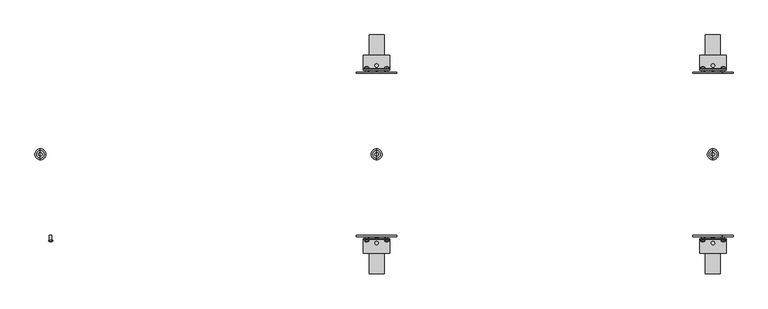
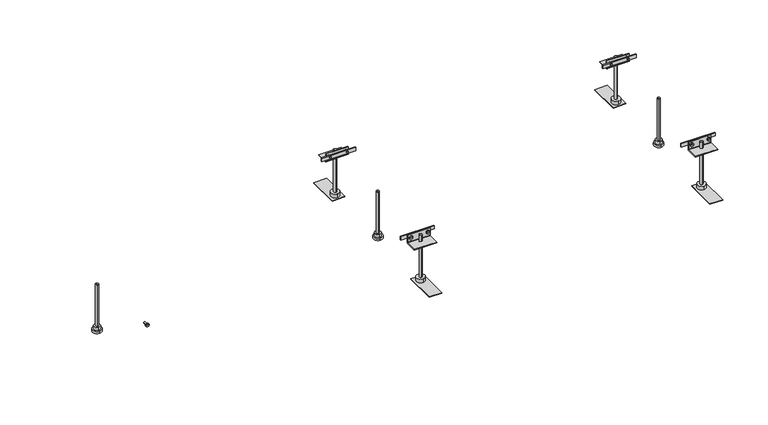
"""IFC4 building model written with IfcOpenShell, lengths in millimetres: proxy geometry, Electrical_Installation_Hager_BKF-Trunking-System-With-Flexible-Screed-Casing-For-Dry-Cleaned-Floors : Nominal Size 400  Length 2.4 m."""

from ifc_helpers import new_model, si_unit, point, frame, frame_2d, origin, place, context, project, spatial, polyline, circle_curve, ellipse_curve, trimmed, segment, composite_curve, outline, extrude, source, transform, mapped, element, save
from ifc_brep_helpers import plane_surface, cylinder_surface, revolved_surface, advanced_brep


def electrical_fixtures_b3ad14d0(model_context):
    return source(origin(), model_context, "Body", "SolidModel", [
        advanced_brep(
        [(1600.0, 13.0, -129.7), (1600.0, -13.0, -129.7), (1600.0, 0.0, -129.7), (1600.0, 13.0, -123.7), (1600.0, -13.0, -123.7), (1600.0, 9.0, -123.7), (1600.0, -9.0, -123.7), (1600.0, 9.0, -114.7), (1600.0, -9.0, -114.7), (1600.0, 3.954744, -114.7), (1600.0, -3.954744, -114.7), (1600.0, 3.954744, 10.3), (1600.0, -3.954744, 10.3), (1600.0, 0.0, 10.3)],
        [
            (0, 1, circle_curve(frame((1600.0, 0.0, -129.7), z_axis=(0.0, 0.0, -1.0), x_axis=(0.0, -1.0, 0.0)), 13.0)),
            (1, 2),
            (2, 0),
            (1, 0, circle_curve(frame((1600.0, 0.0, -129.7), z_axis=(0.0, 0.0, -1.0), x_axis=(0.0, -1.0, 0.0)), 13.0)),
            (3, 4, circle_curve(frame((1600.0, 0.0, -123.7), z_axis=(0.0, 0.0, -1.0), x_axis=(0.0, -1.0, 0.0)), 13.0)),
            (4, 1),
            (0, 3),
            (4, 3, circle_curve(frame((1600.0, 0.0, -123.7), z_axis=(0.0, 0.0, -1.0), x_axis=(0.0, -1.0, 0.0)), 13.0)),
            (5, 6, circle_curve(frame((1600.0, 0.0, -123.7), z_axis=(0.0, 0.0, -1.0), x_axis=(0.0, -1.0, 0.0)), 9.0)),
            (6, 4),
            (3, 5),
            (6, 5, circle_curve(frame((1600.0, 0.0, -123.7), z_axis=(0.0, 0.0, -1.0), x_axis=(0.0, -1.0, 0.0)), 9.0)),
            (7, 8, circle_curve(frame((1600.0, 0.0, -114.7), z_axis=(0.0, 0.0, -1.0), x_axis=(0.0, -1.0, 0.0)), 9.0)),
            (8, 6),
            (5, 7),
            (8, 7, circle_curve(frame((1600.0, 0.0, -114.7), z_axis=(0.0, 0.0, -1.0), x_axis=(0.0, -1.0, 0.0)), 9.0)),
            (9, 10, circle_curve(frame((1600.0, 0.0, -114.7), z_axis=(0.0, 0.0, -1.0), x_axis=(0.0, -1.0, 0.0)), 3.954744)),
            (10, 8),
            (7, 9),
            (10, 9, circle_curve(frame((1600.0, 0.0, -114.7), z_axis=(0.0, 0.0, -1.0), x_axis=(0.0, -1.0, 0.0)), 3.954744)),
            (11, 12, circle_curve(frame((1600.0, 0.0, 10.3), z_axis=(0.0, 0.0, -1.0), x_axis=(0.0, -1.0, 0.0)), 3.954744)),
            (12, 10),
            (9, 11),
            (12, 11, circle_curve(frame((1600.0, 0.0, 10.3), z_axis=(0.0, 0.0, -1.0), x_axis=(0.0, -1.0, 0.0)), 3.954744)),
            (13, 12),
            (11, 13),
        ],
        [
            plane_surface(frame((1600.0, 0.0, -129.7), z_axis=(0.0, 0.0, -1.0), x_axis=(0.0, -1.0, 0.0))),
            cylinder_surface(frame((1600.0, 0.0, 7.8), z_axis=(0.0, 0.0, 1.0), x_axis=(0.0, -1.0, 0.0)), 13.0),
            plane_surface(frame((1600.0, 0.0, -123.7), z_axis=(0.0, 0.0, 1.0), x_axis=(0.0, -1.0, 0.0))),
            cylinder_surface(frame((1600.0, 0.0, 7.8), z_axis=(0.0, 0.0, 1.0), x_axis=(0.0, -1.0, 0.0)), 9.0),
            plane_surface(frame((1600.0, 0.0, -114.7), z_axis=(0.0, 0.0, 1.0), x_axis=(0.0, -1.0, 0.0))),
            cylinder_surface(frame((1600.0, 0.0, 7.8), z_axis=(0.0, 0.0, 1.0), x_axis=(0.0, -1.0, 0.0)), 3.954744),
            plane_surface(frame((1600.0, 0.0, 10.3), z_axis=(0.0, 0.0, 1.0), x_axis=(0.0, -1.0, 0.0))),
        ],
        [
            (0, [[1, 2, 3]]),
            (0, [[4, -3, -2]]),
            (1, [[5, 6, -1, 7]]),
            (1, [[8, -7, -4, -6]]),
            (2, [[9, 10, -5, 11]]),
            (2, [[12, -11, -8, -10]]),
            (3, [[13, 14, -9, 15]]),
            (3, [[16, -15, -12, -14]]),
            (4, [[17, 18, -13, 19]]),
            (4, [[20, -19, -16, -18]]),
            (5, [[21, 22, -17, 23]]),
            (5, [[24, -23, -20, -22]]),
            (6, [[25, -21, 26]]),
            (6, [[-26, -24, -25]]),
        ],
    ),
        advanced_brep(
        [(1629.0575247, -206.6418922, 3.3), (1619.4769168, -206.6418922, 3.3), (1619.4769168, -204.7, 3.3), (1629.0575247, -204.7, 3.3), (1621.7042517, -204.7, 3.3), (1626.8301898, -204.7, 3.3), (1621.7042517, -192.7, 3.3), (1626.8301898, -192.7, 3.3), (1624.2672208, -192.7, 3.3), (1624.2672208, -208.3479209, 3.3)],
        [
            (0, 1, circle_curve(frame((1624.2672208, -206.6418922, 3.3), z_axis=(0.0, 1.0, 0.0), x_axis=(-1.0, 0.0, 0.0)), 4.790304)),
            (1, 2),
            (2, 3, circle_curve(frame((1624.2672208, -204.7, 3.3), z_axis=(0.0, -1.0, 0.0), x_axis=(-1.0, 0.0, 0.0)), 4.790304)),
            (3, 0),
            (1, 0, circle_curve(frame((1624.2672208, -206.6418922, 3.3), z_axis=(0.0, 1.0, 0.0), x_axis=(-1.0, 0.0, 0.0)), 4.790304)),
            (3, 2, circle_curve(frame((1624.2672208, -204.7, 3.3), z_axis=(0.0, -1.0, 0.0), x_axis=(-1.0, 0.0, 0.0)), 4.790304)),
            (2, 4),
            (4, 5, circle_curve(frame((1624.2672208, -204.7, 3.3), z_axis=(0.0, -1.0, 0.0), x_axis=(-1.0, 0.0, 0.0)), 2.562969)),
            (5, 3),
            (5, 4, circle_curve(frame((1624.2672208, -204.7, 3.3), z_axis=(0.0, -1.0, 0.0), x_axis=(-1.0, 0.0, 0.0)), 2.562969)),
            (4, 6),
            (6, 7, circle_curve(frame((1624.2672208, -192.7, 3.3), z_axis=(0.0, -1.0, 0.0), x_axis=(-1.0, 0.0, 0.0)), 2.562969)),
            (7, 5),
            (7, 6, circle_curve(frame((1624.2672208, -192.7, 3.3), z_axis=(0.0, -1.0, 0.0), x_axis=(-1.0, 0.0, 0.0)), 2.562969)),
            (6, 8),
            (8, 7),
            (9, 1, circle_curve(frame((1624.2353142, -200.8592246, 3.3), z_axis=(0.0, 0.0, -1.0), x_axis=(-1.0, 0.0, 0.0)), 7.4887643)),
            (0, 9, circle_curve(frame((1624.2991274, -200.8592246, 3.3), z_axis=(0.0, 0.0, -1.0), x_axis=(1.0, 0.0, 0.0)), 7.4887643)),
        ],
        [
            cylinder_surface(frame((1624.2672208, -204.2950786, 3.3), z_axis=(0.0, -1.0, 0.0), x_axis=(-1.0, 0.0, 0.0)), 4.790304),
            plane_surface(frame((1624.2672208, -204.7, 3.3), z_axis=(0.0, 1.0, 0.0), x_axis=(-1.0, 0.0, 0.0))),
            cylinder_surface(frame((1624.2672208, -204.2950786, 3.3), z_axis=(0.0, -1.0, 0.0), x_axis=(-1.0, 0.0, 0.0)), 2.562969),
            plane_surface(frame((1624.2672208, -192.7, 3.3), z_axis=(0.0, 1.0, 0.0), x_axis=(-1.0, 0.0, 0.0))),
            revolved_surface(trimmed(ellipse_curve(frame((1624.2353142, -200.8592246, 3.3), z_axis=(0.0, 0.0, 1.0), x_axis=(-1.0, 0.0, 0.0)), 7.4887643, 7.4887643), [point((1619.4769168, -206.6418922, 3.3))], [point((1624.2672208, -208.3479209, 3.3))], True, "CARTESIAN"), (1624.2672208, -204.2950786, 3.3), (0.0, -1.0, 0.0)),
        ],
        [
            (0, [[1, 2, 3, 4]]),
            (0, [[5, -4, 6, -2]]),
            (1, [[-3, 7, 8, 9]]),
            (1, [[-6, -9, 10, -7]]),
            (2, [[-8, 11, 12, 13]]),
            (2, [[-10, -13, 14, -11]]),
            (3, [[-12, 15, 16]]),
            (3, [[-14, -16, -15]]),
            (4, [[17, -1, 18]]),
            (4, [[-18, -5, -17]]),
        ],
    ),
        advanced_brep(
        [(1580.790304, -206.6418922, 3.3), (1571.209696, -206.6418922, 3.3), (1571.209696, -204.7, 3.3), (1580.790304, -204.7, 3.3), (1573.437031, -204.7, 3.3), (1578.562969, -204.7, 3.3), (1573.437031, -192.7, 3.3), (1578.562969, -192.7, 3.3), (1576.0, -192.7, 3.3), (1576.0, -208.3479209, 3.3)],
        [
            (0, 1, circle_curve(frame((1576.0, -206.6418922, 3.3), z_axis=(0.0, 1.0, 0.0), x_axis=(-1.0, 0.0, 0.0)), 4.790304)),
            (1, 2),
            (2, 3, circle_curve(frame((1576.0, -204.7, 3.3), z_axis=(0.0, -1.0, 0.0), x_axis=(-1.0, 0.0, 0.0)), 4.790304)),
            (3, 0),
            (1, 0, circle_curve(frame((1576.0, -206.6418922, 3.3), z_axis=(0.0, 1.0, 0.0), x_axis=(-1.0, 0.0, 0.0)), 4.790304)),
            (3, 2, circle_curve(frame((1576.0, -204.7, 3.3), z_axis=(0.0, -1.0, 0.0), x_axis=(-1.0, 0.0, 0.0)), 4.790304)),
            (2, 4),
            (4, 5, circle_curve(frame((1576.0, -204.7, 3.3), z_axis=(0.0, -1.0, 0.0), x_axis=(-1.0, 0.0, 0.0)), 2.562969)),
            (5, 3),
            (5, 4, circle_curve(frame((1576.0, -204.7, 3.3), z_axis=(0.0, -1.0, 0.0), x_axis=(-1.0, 0.0, 0.0)), 2.562969)),
            (4, 6),
            (6, 7, circle_curve(frame((1576.0, -192.7, 3.3), z_axis=(0.0, -1.0, 0.0), x_axis=(-1.0, 0.0, 0.0)), 2.562969)),
            (7, 5),
            (7, 6, circle_curve(frame((1576.0, -192.7, 3.3), z_axis=(0.0, -1.0, 0.0), x_axis=(-1.0, 0.0, 0.0)), 2.562969)),
            (6, 8),
            (8, 7),
            (9, 1, circle_curve(frame((1575.9680934, -200.8592246, 3.3), z_axis=(0.0, 0.0, -1.0), x_axis=(-1.0, 0.0, 0.0)), 7.4887643)),
            (0, 9, circle_curve(frame((1576.0319066, -200.8592246, 3.3), z_axis=(0.0, 0.0, -1.0), x_axis=(1.0, 0.0, 0.0)), 7.4887643)),
        ],
        [
            cylinder_surface(frame((1576.0, -204.2950786, 3.3), z_axis=(0.0, -1.0, 0.0), x_axis=(-1.0, 0.0, 0.0)), 4.790304),
            plane_surface(frame((1576.0, -204.7, 3.3), z_axis=(0.0, 1.0, 0.0), x_axis=(-1.0, 0.0, 0.0))),
            cylinder_surface(frame((1576.0, -204.2950786, 3.3), z_axis=(0.0, -1.0, 0.0), x_axis=(-1.0, 0.0, 0.0)), 2.562969),
            plane_surface(frame((1576.0, -192.7, 3.3), z_axis=(0.0, 1.0, 0.0), x_axis=(-1.0, 0.0, 0.0))),
            revolved_surface(trimmed(ellipse_curve(frame((1575.9680934, -200.8592246, 3.3), z_axis=(0.0, 0.0, 1.0), x_axis=(-1.0, 0.0, 0.0)), 7.4887643, 7.4887643), [point((1571.209696, -206.6418922, 3.3))], [point((1576.0, -208.3479209, 3.3))], True, "CARTESIAN"), (1576.0, -204.2950786, 3.3), (0.0, -1.0, 0.0)),
        ],
        [
            (0, [[1, 2, 3, 4]]),
            (0, [[5, -4, 6, -2]]),
            (1, [[-3, 7, 8, 9]]),
            (1, [[-6, -9, 10, -7]]),
            (2, [[-8, 11, 12, 13]]),
            (2, [[-10, -13, 14, -11]]),
            (3, [[-12, 15, 16]]),
            (3, [[-14, -16, -15]]),
            (4, [[17, -1, 18]]),
            (4, [[-18, -5, -17]]),
        ],
    ),
        advanced_brep(
        [(1629.0575247, 204.7, 3.3), (1619.4769168, 204.7, 3.3), (1619.4769168, 206.6418922, 3.3), (1629.0575247, 206.6418922, 3.3), (1626.8301898, 204.7, 3.3), (1621.7042517, 204.7, 3.3), (1626.8301898, 192.7, 3.3), (1621.7042517, 192.7, 3.3), (1624.2672208, 192.7, 3.3), (1624.2672208, 208.3479209, 3.3)],
        [
            (0, 1, circle_curve(frame((1624.2672208, 204.7, 3.3), z_axis=(0.0, 1.0, 0.0), x_axis=(-1.0, 0.0, 0.0)), 4.790304)),
            (1, 2),
            (2, 3, circle_curve(frame((1624.2672208, 206.6418922, 3.3), z_axis=(0.0, -1.0, 0.0), x_axis=(-1.0, 0.0, 0.0)), 4.790304)),
            (3, 0),
            (1, 0, circle_curve(frame((1624.2672208, 204.7, 3.3), z_axis=(0.0, 1.0, 0.0), x_axis=(-1.0, 0.0, 0.0)), 4.790304)),
            (3, 2, circle_curve(frame((1624.2672208, 206.6418922, 3.3), z_axis=(0.0, -1.0, 0.0), x_axis=(-1.0, 0.0, 0.0)), 4.790304)),
            (4, 5, circle_curve(frame((1624.2672208, 204.7, 3.3), z_axis=(0.0, 1.0, 0.0), x_axis=(-1.0, 0.0, 0.0)), 2.562969)),
            (5, 1),
            (0, 4),
            (5, 4, circle_curve(frame((1624.2672208, 204.7, 3.3), z_axis=(0.0, 1.0, 0.0), x_axis=(-1.0, 0.0, 0.0)), 2.562969)),
            (6, 7, circle_curve(frame((1624.2672208, 192.7, 3.3), z_axis=(0.0, 1.0, 0.0), x_axis=(-1.0, 0.0, 0.0)), 2.562969)),
            (7, 5),
            (4, 6),
            (7, 6, circle_curve(frame((1624.2672208, 192.7, 3.3), z_axis=(0.0, 1.0, 0.0), x_axis=(-1.0, 0.0, 0.0)), 2.562969)),
            (8, 7),
            (6, 8),
            (2, 9, circle_curve(frame((1624.2353142, 200.8592246, 3.3), z_axis=(0.0, 0.0, -1.0), x_axis=(-1.0, 0.0, 0.0)), 7.4887643)),
            (9, 3, circle_curve(frame((1624.2991274, 200.8592246, 3.3), z_axis=(0.0, 0.0, -1.0), x_axis=(1.0, 0.0, 0.0)), 7.4887643)),
        ],
        [
            cylinder_surface(frame((1624.2672208, 204.2950786, 3.3), z_axis=(0.0, -1.0, 0.0), x_axis=(-1.0, 0.0, 0.0)), 4.790304),
            plane_surface(frame((1624.2672208, 204.7, 3.3), z_axis=(0.0, -1.0, 0.0), x_axis=(-1.0, 0.0, 0.0))),
            cylinder_surface(frame((1624.2672208, 204.2950786, 3.3), z_axis=(0.0, -1.0, 0.0), x_axis=(-1.0, 0.0, 0.0)), 2.562969),
            plane_surface(frame((1624.2672208, 192.7, 3.3), z_axis=(0.0, -1.0, 0.0), x_axis=(-1.0, 0.0, 0.0))),
            revolved_surface(trimmed(ellipse_curve(frame((1624.2353142, 200.8592246, 3.3), z_axis=(0.0, 0.0, 1.0), x_axis=(-1.0, 0.0, 0.0)), 7.4887643, 7.4887643), [point((1624.2672208, 208.3479209, 3.3))], [point((1619.4769168, 206.6418922, 3.3))], True, "CARTESIAN"), (1624.2672208, 204.2950786, 3.3), (0.0, -1.0, 0.0)),
        ],
        [
            (0, [[1, 2, 3, 4]]),
            (0, [[5, -4, 6, -2]]),
            (1, [[7, 8, -1, 9]]),
            (1, [[10, -9, -5, -8]]),
            (2, [[11, 12, -7, 13]]),
            (2, [[14, -13, -10, -12]]),
            (3, [[15, -11, 16]]),
            (3, [[-16, -14, -15]]),
            (4, [[-3, 17, 18]]),
            (4, [[-6, -18, -17]]),
        ],
    ),
        advanced_brep(
        [(1580.790304, 204.7, 3.3), (1571.209696, 204.7, 3.3), (1571.209696, 206.6418922, 3.3), (1580.790304, 206.6418922, 3.3), (1578.562969, 204.7, 3.3), (1573.437031, 204.7, 3.3), (1578.562969, 192.7, 3.3), (1573.437031, 192.7, 3.3), (1576.0, 192.7, 3.3), (1576.0, 208.3479209, 3.3)],
        [
            (0, 1, circle_curve(frame((1576.0, 204.7, 3.3), z_axis=(0.0, 1.0, 0.0), x_axis=(-1.0, 0.0, 0.0)), 4.790304)),
            (1, 2),
            (2, 3, circle_curve(frame((1576.0, 206.6418922, 3.3), z_axis=(0.0, -1.0, 0.0), x_axis=(-1.0, 0.0, 0.0)), 4.790304)),
            (3, 0),
            (1, 0, circle_curve(frame((1576.0, 204.7, 3.3), z_axis=(0.0, 1.0, 0.0), x_axis=(-1.0, 0.0, 0.0)), 4.790304)),
            (3, 2, circle_curve(frame((1576.0, 206.6418922, 3.3), z_axis=(0.0, -1.0, 0.0), x_axis=(-1.0, 0.0, 0.0)), 4.790304)),
            (4, 5, circle_curve(frame((1576.0, 204.7, 3.3), z_axis=(0.0, 1.0, 0.0), x_axis=(-1.0, 0.0, 0.0)), 2.562969)),
            (5, 1),
            (0, 4),
            (5, 4, circle_curve(frame((1576.0, 204.7, 3.3), z_axis=(0.0, 1.0, 0.0), x_axis=(-1.0, 0.0, 0.0)), 2.562969)),
            (6, 7, circle_curve(frame((1576.0, 192.7, 3.3), z_axis=(0.0, 1.0, 0.0), x_axis=(-1.0, 0.0, 0.0)), 2.562969)),
            (7, 5),
            (4, 6),
            (7, 6, circle_curve(frame((1576.0, 192.7, 3.3), z_axis=(0.0, 1.0, 0.0), x_axis=(-1.0, 0.0, 0.0)), 2.562969)),
            (8, 7),
            (6, 8),
            (2, 9, circle_curve(frame((1575.9680934, 200.8592246, 3.3), z_axis=(0.0, 0.0, -1.0), x_axis=(-1.0, 0.0, 0.0)), 7.4887643)),
            (9, 3, circle_curve(frame((1576.0319066, 200.8592246, 3.3), z_axis=(0.0, 0.0, -1.0), x_axis=(1.0, 0.0, 0.0)), 7.4887643)),
        ],
        [
            cylinder_surface(frame((1576.0, 204.2950786, 3.3), z_axis=(0.0, -1.0, 0.0), x_axis=(-1.0, 0.0, 0.0)), 4.790304),
            plane_surface(frame((1576.0, 204.7, 3.3), z_axis=(0.0, -1.0, 0.0), x_axis=(-1.0, 0.0, 0.0))),
            cylinder_surface(frame((1576.0, 204.2950786, 3.3), z_axis=(0.0, -1.0, 0.0), x_axis=(-1.0, 0.0, 0.0)), 2.562969),
            plane_surface(frame((1576.0, 192.7, 3.3), z_axis=(0.0, -1.0, 0.0), x_axis=(-1.0, 0.0, 0.0))),
            revolved_surface(trimmed(ellipse_curve(frame((1575.9680934, 200.8592246, 3.3), z_axis=(0.0, 0.0, 1.0), x_axis=(-1.0, 0.0, 0.0)), 7.4887643, 7.4887643), [point((1576.0, 208.3479209, 3.3))], [point((1571.209696, 206.6418922, 3.3))], True, "CARTESIAN"), (1576.0, 204.2950786, 3.3), (0.0, -1.0, 0.0)),
        ],
        [
            (0, [[1, 2, 3, 4]]),
            (0, [[5, -4, 6, -2]]),
            (1, [[7, 8, -1, 9]]),
            (1, [[10, -9, -5, -8]]),
            (2, [[11, 12, -7, 13]]),
            (2, [[14, -13, -10, -12]]),
            (3, [[15, -11, 16]]),
            (3, [[-16, -14, -15]]),
            (4, [[-3, 17, 18]]),
            (4, [[-6, -18, -17]]),
        ],
    ),
        extrude(outline(polyline([(1552.0, 192.7), (1552.0, 195.7), (1648.0, 195.7), (1648.0, 192.7), (1552.0, 192.7)])), frame((0.0, 0.0, -1.7), z_axis=(0.0, 0.0, 1.0), x_axis=(1.0, 0.0, 0.0)), (0.0, 0.0, 1.0), 10.0),
        extrude(outline(polyline([(1552.0, -195.7), (1552.0, -192.7), (1648.0, -192.7), (1648.0, -195.7), (1552.0, -195.7)])), frame((0.0, 0.0, -1.7), z_axis=(0.0, 0.0, 1.0), x_axis=(1.0, 0.0, 0.0)), (0.0, 0.0, 1.0), 10.0),
        extrude(outline(composite_curve([segment(polyline([(200.6, 11.7), (202.6, 11.7), (202.6, -10.3088822)]), True, "CONTINUOUS"), segment(trimmed(circle_curve(frame_2d((203.5911178, -10.3088822)), 0.9911178), [point((202.6, -10.3088822))], [point((203.5911178, -11.3))], True, "CARTESIAN"), True, "CONTINUOUS"), segment(polyline([(203.5911178, -11.3), (235.6, -11.3), (235.6, -13.3), (203.6002521, -13.3)]), True, "CONTINUOUS"), segment(trimmed(circle_curve(frame_2d((203.6002521, -10.2997479)), 3.0002521), [point((203.6002521, -13.3))], [point((200.6, -10.2997479))], False, "CARTESIAN"), True, "CONTINUOUS"), segment(polyline([(200.6, -10.2997479), (200.6, 11.7)]), True, "CONTINUOUS")], self_intersect=False)), frame((1568.3, 0.0, 0.0), z_axis=(1.0, 0.0, 0.0), x_axis=(0.0, 1.0, 0.0)), (0.0, 0.0, 1.0), 63.4),
        extrude(outline(composite_curve([segment(polyline([(-200.6, 11.7), (-200.6, -10.2997479)]), True, "CONTINUOUS"), segment(trimmed(circle_curve(frame_2d((-203.6002521, -10.2997479)), 3.0002521), [point((-200.6, -10.2997479))], [point((-203.6002521, -13.3))], False, "CARTESIAN"), True, "CONTINUOUS"), segment(polyline([(-203.6002521, -13.3), (-235.6, -13.3), (-235.6, -11.3), (-203.5911178, -11.3)]), True, "CONTINUOUS"), segment(trimmed(circle_curve(frame_2d((-203.5911178, -10.3088822)), 0.9911178), [point((-203.5911178, -11.3))], [point((-202.6, -10.3088822))], True, "CARTESIAN"), True, "CONTINUOUS"), segment(polyline([(-202.6, -10.3088822), (-202.6, 11.7), (-200.6, 11.7)]), True, "CONTINUOUS")], self_intersect=False)), frame((1568.3, 0.0, 0.0), z_axis=(1.0, 0.0, 0.0), x_axis=(0.0, 1.0, 0.0)), (0.0, 0.0, 1.0), 63.4),
        extrude(outline(composite_curve([segment(trimmed(circle_curve(frame_2d((1600.0, 211.1712378)), 3.9923162), [point((1600.0, 215.163554))], [point((1600.0, 207.1789216))], False, "CARTESIAN"), True, "CONTINUOUS"), segment(trimmed(circle_curve(frame_2d((1600.0, 211.1712378)), 3.9923162), [point((1600.0, 207.1789216))], [point((1600.0, 215.163554))], False, "CARTESIAN"), True, "CONTINUOUS")], self_intersect=False)), frame((0.0, 0.0, -119.0), z_axis=(0.0, 0.0, 1.0), x_axis=(1.0, 0.0, 0.0)), (0.0, 0.0, 1.0), 126.8),
        extrude(outline(composite_curve([segment(trimmed(circle_curve(frame_2d((1600.0, -211.0787011)), 3.991847), [point((1600.0, -207.0868541))], [point((1600.0, -215.0705482))], False, "CARTESIAN"), True, "CONTINUOUS"), segment(trimmed(circle_curve(frame_2d((1600.0, -211.0787011)), 3.991847), [point((1600.0, -215.0705482))], [point((1600.0, -207.0868541))], False, "CARTESIAN"), True, "CONTINUOUS")], self_intersect=False)), frame((0.0, 0.0, -119.0), z_axis=(0.0, 0.0, 1.0), x_axis=(1.0, 0.0, 0.0)), (0.0, 0.0, 1.0), 126.8),
        extrude(outline(composite_curve([segment(trimmed(circle_curve(frame_2d((1600.0, 211.1652527)), 12.0), [point((1600.0, 223.1652527))], [point((1600.0, 199.1652527))], False, "CARTESIAN"), True, "CONTINUOUS"), segment(trimmed(circle_curve(frame_2d((1600.0, 211.1652527)), 12.0), [point((1600.0, 199.1652527))], [point((1600.0, 223.1652527))], False, "CARTESIAN"), True, "CONTINUOUS")], self_intersect=False)), frame((0.0, 0.0, -129.7), z_axis=(0.0, 0.0, 1.0), x_axis=(1.0, 0.0, 0.0)), (0.0, 0.0, 1.0), 10.7),
        extrude(outline(composite_curve([segment(trimmed(circle_curve(frame_2d((1600.0, -211.112037)), 12.0), [point((1600.0, -199.112037))], [point((1600.0, -223.112037))], False, "CARTESIAN"), True, "CONTINUOUS"), segment(trimmed(circle_curve(frame_2d((1600.0, -211.112037)), 12.0), [point((1600.0, -223.112037))], [point((1600.0, -199.112037))], False, "CARTESIAN"), True, "CONTINUOUS")], self_intersect=False)), frame((0.0, 0.0, -129.7), z_axis=(0.0, 0.0, 1.0), x_axis=(1.0, 0.0, 0.0)), (0.0, 0.0, 1.0), 10.7),
        extrude(outline(polyline([(1618.0, 194.1), (1582.0, 194.1), (1582.0, 284.1), (1618.0, 284.1), (1618.0, 194.1)])), frame((0.0, 0.0, -131.2), z_axis=(0.0, 0.0, 1.0), x_axis=(1.0, 0.0, 0.0)), (0.0, 0.0, 1.0), 1.5),
        extrude(outline(polyline([(1618.0, -284.1), (1582.0, -284.1), (1582.0, -194.1), (1618.0, -194.1), (1618.0, -284.1)])), frame((0.0, 0.0, -131.2), z_axis=(0.0, 0.0, 1.0), x_axis=(1.0, 0.0, 0.0)), (0.0, 0.0, 1.0), 1.5),
        advanced_brep(
        [(800.0, 13.0, -129.7), (800.0, -13.0, -129.7), (800.0, 0.0, -129.7), (800.0, 13.0, -123.7), (800.0, -13.0, -123.7), (800.0, 9.0, -123.7), (800.0, -9.0, -123.7), (800.0, 9.0, -114.7), (800.0, -9.0, -114.7), (800.0, 3.954744, -114.7), (800.0, -3.954744, -114.7), (800.0, 3.954744, 10.3), (800.0, -3.954744, 10.3), (800.0, 0.0, 10.3)],
        [
            (0, 1, circle_curve(frame((800.0, 0.0, -129.7), z_axis=(0.0, 0.0, -1.0), x_axis=(0.0, -1.0, 0.0)), 13.0)),
            (1, 2),
            (2, 0),
            (1, 0, circle_curve(frame((800.0, 0.0, -129.7), z_axis=(0.0, 0.0, -1.0), x_axis=(0.0, -1.0, 0.0)), 13.0)),
            (3, 4, circle_curve(frame((800.0, 0.0, -123.7), z_axis=(0.0, 0.0, -1.0), x_axis=(0.0, -1.0, 0.0)), 13.0)),
            (4, 1),
            (0, 3),
            (4, 3, circle_curve(frame((800.0, 0.0, -123.7), z_axis=(0.0, 0.0, -1.0), x_axis=(0.0, -1.0, 0.0)), 13.0)),
            (5, 6, circle_curve(frame((800.0, 0.0, -123.7), z_axis=(0.0, 0.0, -1.0), x_axis=(0.0, -1.0, 0.0)), 9.0)),
            (6, 4),
            (3, 5),
            (6, 5, circle_curve(frame((800.0, 0.0, -123.7), z_axis=(0.0, 0.0, -1.0), x_axis=(0.0, -1.0, 0.0)), 9.0)),
            (7, 8, circle_curve(frame((800.0, 0.0, -114.7), z_axis=(0.0, 0.0, -1.0), x_axis=(0.0, -1.0, 0.0)), 9.0)),
            (8, 6),
            (5, 7),
            (8, 7, circle_curve(frame((800.0, 0.0, -114.7), z_axis=(0.0, 0.0, -1.0), x_axis=(0.0, -1.0, 0.0)), 9.0)),
            (9, 10, circle_curve(frame((800.0, 0.0, -114.7), z_axis=(0.0, 0.0, -1.0), x_axis=(0.0, -1.0, 0.0)), 3.954744)),
            (10, 8),
            (7, 9),
            (10, 9, circle_curve(frame((800.0, 0.0, -114.7), z_axis=(0.0, 0.0, -1.0), x_axis=(0.0, -1.0, 0.0)), 3.954744)),
            (11, 12, circle_curve(frame((800.0, 0.0, 10.3), z_axis=(0.0, 0.0, -1.0), x_axis=(0.0, -1.0, 0.0)), 3.954744)),
            (12, 10),
            (9, 11),
            (12, 11, circle_curve(frame((800.0, 0.0, 10.3), z_axis=(0.0, 0.0, -1.0), x_axis=(0.0, -1.0, 0.0)), 3.954744)),
            (13, 12),
            (11, 13),
        ],
        [
            plane_surface(frame((800.0, 0.0, -129.7), z_axis=(0.0, 0.0, -1.0), x_axis=(0.0, -1.0, 0.0))),
            cylinder_surface(frame((800.0, 0.0, 7.8), z_axis=(0.0, 0.0, 1.0), x_axis=(0.0, -1.0, 0.0)), 13.0),
            plane_surface(frame((800.0, 0.0, -123.7), z_axis=(0.0, 0.0, 1.0), x_axis=(0.0, -1.0, 0.0))),
            cylinder_surface(frame((800.0, 0.0, 7.8), z_axis=(0.0, 0.0, 1.0), x_axis=(0.0, -1.0, 0.0)), 9.0),
            plane_surface(frame((800.0, 0.0, -114.7), z_axis=(0.0, 0.0, 1.0), x_axis=(0.0, -1.0, 0.0))),
            cylinder_surface(frame((800.0, 0.0, 7.8), z_axis=(0.0, 0.0, 1.0), x_axis=(0.0, -1.0, 0.0)), 3.954744),
            plane_surface(frame((800.0, 0.0, 10.3), z_axis=(0.0, 0.0, 1.0), x_axis=(0.0, -1.0, 0.0))),
        ],
        [
            (0, [[1, 2, 3]]),
            (0, [[4, -3, -2]]),
            (1, [[5, 6, -1, 7]]),
            (1, [[8, -7, -4, -6]]),
            (2, [[9, 10, -5, 11]]),
            (2, [[12, -11, -8, -10]]),
            (3, [[13, 14, -9, 15]]),
            (3, [[16, -15, -12, -14]]),
            (4, [[17, 18, -13, 19]]),
            (4, [[20, -19, -16, -18]]),
            (5, [[21, 22, -17, 23]]),
            (5, [[24, -23, -20, -22]]),
            (6, [[25, -21, 26]]),
            (6, [[-26, -24, -25]]),
        ],
    ),
        advanced_brep(
        [(829.0575247, -206.6418922, 3.3), (819.4769168, -206.6418922, 3.3), (819.4769168, -204.7, 3.3), (829.0575247, -204.7, 3.3), (821.7042517, -204.7, 3.3), (826.8301898, -204.7, 3.3), (821.7042517, -192.7, 3.3), (826.8301898, -192.7, 3.3), (824.2672208, -192.7, 3.3), (824.2672208, -208.3479209, 3.3)],
        [
            (0, 1, circle_curve(frame((824.2672208, -206.6418922, 3.3), z_axis=(0.0, 1.0, 0.0), x_axis=(-1.0, 0.0, 0.0)), 4.790304)),
            (1, 2),
            (2, 3, circle_curve(frame((824.2672208, -204.7, 3.3), z_axis=(0.0, -1.0, 0.0), x_axis=(-1.0, 0.0, 0.0)), 4.790304)),
            (3, 0),
            (1, 0, circle_curve(frame((824.2672208, -206.6418922, 3.3), z_axis=(0.0, 1.0, 0.0), x_axis=(-1.0, 0.0, 0.0)), 4.790304)),
            (3, 2, circle_curve(frame((824.2672208, -204.7, 3.3), z_axis=(0.0, -1.0, 0.0), x_axis=(-1.0, 0.0, 0.0)), 4.790304)),
            (2, 4),
            (4, 5, circle_curve(frame((824.2672208, -204.7, 3.3), z_axis=(0.0, -1.0, 0.0), x_axis=(-1.0, 0.0, 0.0)), 2.562969)),
            (5, 3),
            (5, 4, circle_curve(frame((824.2672208, -204.7, 3.3), z_axis=(0.0, -1.0, 0.0), x_axis=(-1.0, 0.0, 0.0)), 2.562969)),
            (4, 6),
            (6, 7, circle_curve(frame((824.2672208, -192.7, 3.3), z_axis=(0.0, -1.0, 0.0), x_axis=(-1.0, 0.0, 0.0)), 2.562969)),
            (7, 5),
            (7, 6, circle_curve(frame((824.2672208, -192.7, 3.3), z_axis=(0.0, -1.0, 0.0), x_axis=(-1.0, 0.0, 0.0)), 2.562969)),
            (6, 8),
            (8, 7),
            (9, 1, circle_curve(frame((824.2353142, -200.8592246, 3.3), z_axis=(0.0, 0.0, -1.0), x_axis=(-1.0, 0.0, 0.0)), 7.4887643)),
            (0, 9, circle_curve(frame((824.2991274, -200.8592246, 3.3), z_axis=(0.0, 0.0, -1.0), x_axis=(1.0, 0.0, 0.0)), 7.4887643)),
        ],
        [
            cylinder_surface(frame((824.2672208, -204.2950786, 3.3), z_axis=(0.0, -1.0, 0.0), x_axis=(-1.0, 0.0, 0.0)), 4.790304),
            plane_surface(frame((824.2672208, -204.7, 3.3), z_axis=(0.0, 1.0, 0.0), x_axis=(-1.0, 0.0, 0.0))),
            cylinder_surface(frame((824.2672208, -204.2950786, 3.3), z_axis=(0.0, -1.0, 0.0), x_axis=(-1.0, 0.0, 0.0)), 2.562969),
            plane_surface(frame((824.2672208, -192.7, 3.3), z_axis=(0.0, 1.0, 0.0), x_axis=(-1.0, 0.0, 0.0))),
            revolved_surface(trimmed(ellipse_curve(frame((824.2353142, -200.8592246, 3.3), z_axis=(0.0, 0.0, 1.0), x_axis=(-1.0, 0.0, 0.0)), 7.4887643, 7.4887643), [point((819.4769168, -206.6418922, 3.3))], [point((824.2672208, -208.3479209, 3.3))], True, "CARTESIAN"), (824.2672208, -204.2950786, 3.3), (0.0, -1.0, 0.0)),
        ],
        [
            (0, [[1, 2, 3, 4]]),
            (0, [[5, -4, 6, -2]]),
            (1, [[-3, 7, 8, 9]]),
            (1, [[-6, -9, 10, -7]]),
            (2, [[-8, 11, 12, 13]]),
            (2, [[-10, -13, 14, -11]]),
            (3, [[-12, 15, 16]]),
            (3, [[-14, -16, -15]]),
            (4, [[17, -1, 18]]),
            (4, [[-18, -5, -17]]),
        ],
    ),
        advanced_brep(
        [(780.790304, -206.6418922, 3.3), (771.209696, -206.6418922, 3.3), (771.209696, -204.7, 3.3), (780.790304, -204.7, 3.3), (773.437031, -204.7, 3.3), (778.562969, -204.7, 3.3), (773.437031, -192.7, 3.3), (778.562969, -192.7, 3.3), (776.0, -192.7, 3.3), (776.0, -208.3479209, 3.3)],
        [
            (0, 1, circle_curve(frame((776.0, -206.6418922, 3.3), z_axis=(0.0, 1.0, 0.0), x_axis=(-1.0, 0.0, 0.0)), 4.790304)),
            (1, 2),
            (2, 3, circle_curve(frame((776.0, -204.7, 3.3), z_axis=(0.0, -1.0, 0.0), x_axis=(-1.0, 0.0, 0.0)), 4.790304)),
            (3, 0),
            (1, 0, circle_curve(frame((776.0, -206.6418922, 3.3), z_axis=(0.0, 1.0, 0.0), x_axis=(-1.0, 0.0, 0.0)), 4.790304)),
            (3, 2, circle_curve(frame((776.0, -204.7, 3.3), z_axis=(0.0, -1.0, 0.0), x_axis=(-1.0, 0.0, 0.0)), 4.790304)),
            (2, 4),
            (4, 5, circle_curve(frame((776.0, -204.7, 3.3), z_axis=(0.0, -1.0, 0.0), x_axis=(-1.0, 0.0, 0.0)), 2.562969)),
            (5, 3),
            (5, 4, circle_curve(frame((776.0, -204.7, 3.3), z_axis=(0.0, -1.0, 0.0), x_axis=(-1.0, 0.0, 0.0)), 2.562969)),
            (4, 6),
            (6, 7, circle_curve(frame((776.0, -192.7, 3.3), z_axis=(0.0, -1.0, 0.0), x_axis=(-1.0, 0.0, 0.0)), 2.562969)),
            (7, 5),
            (7, 6, circle_curve(frame((776.0, -192.7, 3.3), z_axis=(0.0, -1.0, 0.0), x_axis=(-1.0, 0.0, 0.0)), 2.562969)),
            (6, 8),
            (8, 7),
            (9, 1, circle_curve(frame((775.9680934, -200.8592246, 3.3), z_axis=(0.0, 0.0, -1.0), x_axis=(-1.0, 0.0, 0.0)), 7.4887643)),
            (0, 9, circle_curve(frame((776.0319066, -200.8592246, 3.3), z_axis=(0.0, 0.0, -1.0), x_axis=(1.0, 0.0, 0.0)), 7.4887643)),
        ],
        [
            cylinder_surface(frame((776.0, -204.2950786, 3.3), z_axis=(0.0, -1.0, 0.0), x_axis=(-1.0, 0.0, 0.0)), 4.790304),
            plane_surface(frame((776.0, -204.7, 3.3), z_axis=(0.0, 1.0, 0.0), x_axis=(-1.0, 0.0, 0.0))),
            cylinder_surface(frame((776.0, -204.2950786, 3.3), z_axis=(0.0, -1.0, 0.0), x_axis=(-1.0, 0.0, 0.0)), 2.562969),
            plane_surface(frame((776.0, -192.7, 3.3), z_axis=(0.0, 1.0, 0.0), x_axis=(-1.0, 0.0, 0.0))),
            revolved_surface(trimmed(ellipse_curve(frame((775.9680934, -200.8592246, 3.3), z_axis=(0.0, 0.0, 1.0), x_axis=(-1.0, 0.0, 0.0)), 7.4887643, 7.4887643), [point((771.209696, -206.6418922, 3.3))], [point((776.0, -208.3479209, 3.3))], True, "CARTESIAN"), (776.0, -204.2950786, 3.3), (0.0, -1.0, 0.0)),
        ],
        [
            (0, [[1, 2, 3, 4]]),
            (0, [[5, -4, 6, -2]]),
            (1, [[-3, 7, 8, 9]]),
            (1, [[-6, -9, 10, -7]]),
            (2, [[-8, 11, 12, 13]]),
            (2, [[-10, -13, 14, -11]]),
            (3, [[-12, 15, 16]]),
            (3, [[-14, -16, -15]]),
            (4, [[17, -1, 18]]),
            (4, [[-18, -5, -17]]),
        ],
    ),
        advanced_brep(
        [(829.0575247, 204.7, 3.3), (819.4769168, 204.7, 3.3), (819.4769168, 206.6418922, 3.3), (829.0575247, 206.6418922, 3.3), (826.8301898, 204.7, 3.3), (821.7042517, 204.7, 3.3), (826.8301898, 192.7, 3.3), (821.7042517, 192.7, 3.3), (824.2672208, 192.7, 3.3), (824.2672208, 208.3479209, 3.3)],
        [
            (0, 1, circle_curve(frame((824.2672208, 204.7, 3.3), z_axis=(0.0, 1.0, 0.0), x_axis=(-1.0, 0.0, 0.0)), 4.790304)),
            (1, 2),
            (2, 3, circle_curve(frame((824.2672208, 206.6418922, 3.3), z_axis=(0.0, -1.0, 0.0), x_axis=(-1.0, 0.0, 0.0)), 4.790304)),
            (3, 0),
            (1, 0, circle_curve(frame((824.2672208, 204.7, 3.3), z_axis=(0.0, 1.0, 0.0), x_axis=(-1.0, 0.0, 0.0)), 4.790304)),
            (3, 2, circle_curve(frame((824.2672208, 206.6418922, 3.3), z_axis=(0.0, -1.0, 0.0), x_axis=(-1.0, 0.0, 0.0)), 4.790304)),
            (4, 5, circle_curve(frame((824.2672208, 204.7, 3.3), z_axis=(0.0, 1.0, 0.0), x_axis=(-1.0, 0.0, 0.0)), 2.562969)),
            (5, 1),
            (0, 4),
            (5, 4, circle_curve(frame((824.2672208, 204.7, 3.3), z_axis=(0.0, 1.0, 0.0), x_axis=(-1.0, 0.0, 0.0)), 2.562969)),
            (6, 7, circle_curve(frame((824.2672208, 192.7, 3.3), z_axis=(0.0, 1.0, 0.0), x_axis=(-1.0, 0.0, 0.0)), 2.562969)),
            (7, 5),
            (4, 6),
            (7, 6, circle_curve(frame((824.2672208, 192.7, 3.3), z_axis=(0.0, 1.0, 0.0), x_axis=(-1.0, 0.0, 0.0)), 2.562969)),
            (8, 7),
            (6, 8),
            (2, 9, circle_curve(frame((824.2353142, 200.8592246, 3.3), z_axis=(0.0, 0.0, -1.0), x_axis=(-1.0, 0.0, 0.0)), 7.4887643)),
            (9, 3, circle_curve(frame((824.2991274, 200.8592246, 3.3), z_axis=(0.0, 0.0, -1.0), x_axis=(1.0, 0.0, 0.0)), 7.4887643)),
        ],
        [
            cylinder_surface(frame((824.2672208, 204.2950786, 3.3), z_axis=(0.0, -1.0, 0.0), x_axis=(-1.0, 0.0, 0.0)), 4.790304),
            plane_surface(frame((824.2672208, 204.7, 3.3), z_axis=(0.0, -1.0, 0.0), x_axis=(-1.0, 0.0, 0.0))),
            cylinder_surface(frame((824.2672208, 204.2950786, 3.3), z_axis=(0.0, -1.0, 0.0), x_axis=(-1.0, 0.0, 0.0)), 2.562969),
            plane_surface(frame((824.2672208, 192.7, 3.3), z_axis=(0.0, -1.0, 0.0), x_axis=(-1.0, 0.0, 0.0))),
            revolved_surface(trimmed(ellipse_curve(frame((824.2353142, 200.8592246, 3.3), z_axis=(0.0, 0.0, 1.0), x_axis=(-1.0, 0.0, 0.0)), 7.4887643, 7.4887643), [point((824.2672208, 208.3479209, 3.3))], [point((819.4769168, 206.6418922, 3.3))], True, "CARTESIAN"), (824.2672208, 204.2950786, 3.3), (0.0, -1.0, 0.0)),
        ],
        [
            (0, [[1, 2, 3, 4]]),
            (0, [[5, -4, 6, -2]]),
            (1, [[7, 8, -1, 9]]),
            (1, [[10, -9, -5, -8]]),
            (2, [[11, 12, -7, 13]]),
            (2, [[14, -13, -10, -12]]),
            (3, [[15, -11, 16]]),
            (3, [[-16, -14, -15]]),
            (4, [[-3, 17, 18]]),
            (4, [[-6, -18, -17]]),
        ],
    ),
        advanced_brep(
        [(780.790304, 204.7, 3.3), (771.209696, 204.7, 3.3), (771.209696, 206.6418922, 3.3), (780.790304, 206.6418922, 3.3), (778.562969, 204.7, 3.3), (773.437031, 204.7, 3.3), (778.562969, 192.7, 3.3), (773.437031, 192.7, 3.3), (776.0, 192.7, 3.3), (776.0, 208.3479209, 3.3)],
        [
            (0, 1, circle_curve(frame((776.0, 204.7, 3.3), z_axis=(0.0, 1.0, 0.0), x_axis=(-1.0, 0.0, 0.0)), 4.790304)),
            (1, 2),
            (2, 3, circle_curve(frame((776.0, 206.6418922, 3.3), z_axis=(0.0, -1.0, 0.0), x_axis=(-1.0, 0.0, 0.0)), 4.790304)),
            (3, 0),
            (1, 0, circle_curve(frame((776.0, 204.7, 3.3), z_axis=(0.0, 1.0, 0.0), x_axis=(-1.0, 0.0, 0.0)), 4.790304)),
            (3, 2, circle_curve(frame((776.0, 206.6418922, 3.3), z_axis=(0.0, -1.0, 0.0), x_axis=(-1.0, 0.0, 0.0)), 4.790304)),
            (4, 5, circle_curve(frame((776.0, 204.7, 3.3), z_axis=(0.0, 1.0, 0.0), x_axis=(-1.0, 0.0, 0.0)), 2.562969)),
            (5, 1),
            (0, 4),
            (5, 4, circle_curve(frame((776.0, 204.7, 3.3), z_axis=(0.0, 1.0, 0.0), x_axis=(-1.0, 0.0, 0.0)), 2.562969)),
            (6, 7, circle_curve(frame((776.0, 192.7, 3.3), z_axis=(0.0, 1.0, 0.0), x_axis=(-1.0, 0.0, 0.0)), 2.562969)),
            (7, 5),
            (4, 6),
            (7, 6, circle_curve(frame((776.0, 192.7, 3.3), z_axis=(0.0, 1.0, 0.0), x_axis=(-1.0, 0.0, 0.0)), 2.562969)),
            (8, 7),
            (6, 8),
            (2, 9, circle_curve(frame((775.9680934, 200.8592246, 3.3), z_axis=(0.0, 0.0, -1.0), x_axis=(-1.0, 0.0, 0.0)), 7.4887643)),
            (9, 3, circle_curve(frame((776.0319066, 200.8592246, 3.3), z_axis=(0.0, 0.0, -1.0), x_axis=(1.0, 0.0, 0.0)), 7.4887643)),
        ],
        [
            cylinder_surface(frame((776.0, 204.2950786, 3.3), z_axis=(0.0, -1.0, 0.0), x_axis=(-1.0, 0.0, 0.0)), 4.790304),
            plane_surface(frame((776.0, 204.7, 3.3), z_axis=(0.0, -1.0, 0.0), x_axis=(-1.0, 0.0, 0.0))),
            cylinder_surface(frame((776.0, 204.2950786, 3.3), z_axis=(0.0, -1.0, 0.0), x_axis=(-1.0, 0.0, 0.0)), 2.562969),
            plane_surface(frame((776.0, 192.7, 3.3), z_axis=(0.0, -1.0, 0.0), x_axis=(-1.0, 0.0, 0.0))),
            revolved_surface(trimmed(ellipse_curve(frame((775.9680934, 200.8592246, 3.3), z_axis=(0.0, 0.0, 1.0), x_axis=(-1.0, 0.0, 0.0)), 7.4887643, 7.4887643), [point((776.0, 208.3479209, 3.3))], [point((771.209696, 206.6418922, 3.3))], True, "CARTESIAN"), (776.0, 204.2950786, 3.3), (0.0, -1.0, 0.0)),
        ],
        [
            (0, [[1, 2, 3, 4]]),
            (0, [[5, -4, 6, -2]]),
            (1, [[7, 8, -1, 9]]),
            (1, [[10, -9, -5, -8]]),
            (2, [[11, 12, -7, 13]]),
            (2, [[14, -13, -10, -12]]),
            (3, [[15, -11, 16]]),
            (3, [[-16, -14, -15]]),
            (4, [[-3, 17, 18]]),
            (4, [[-6, -18, -17]]),
        ],
    ),
        extrude(outline(polyline([(752.0, 192.7), (752.0, 195.7), (848.0, 195.7), (848.0, 192.7), (752.0, 192.7)])), frame((0.0, 0.0, -1.7), z_axis=(0.0, 0.0, 1.0), x_axis=(1.0, 0.0, 0.0)), (0.0, 0.0, 1.0), 10.0),
        extrude(outline(polyline([(752.0, -195.7), (752.0, -192.7), (848.0, -192.7), (848.0, -195.7), (752.0, -195.7)])), frame((0.0, 0.0, -1.7), z_axis=(0.0, 0.0, 1.0), x_axis=(1.0, 0.0, 0.0)), (0.0, 0.0, 1.0), 10.0),
        extrude(outline(composite_curve([segment(polyline([(200.6, 11.7), (202.6, 11.7), (202.6, -10.3088822)]), True, "CONTINUOUS"), segment(trimmed(circle_curve(frame_2d((203.5911178, -10.3088822)), 0.9911178), [point((202.6, -10.3088822))], [point((203.5911178, -11.3))], True, "CARTESIAN"), True, "CONTINUOUS"), segment(polyline([(203.5911178, -11.3), (235.6, -11.3), (235.6, -13.3), (203.6002521, -13.3)]), True, "CONTINUOUS"), segment(trimmed(circle_curve(frame_2d((203.6002521, -10.2997479)), 3.0002521), [point((203.6002521, -13.3))], [point((200.6, -10.2997479))], False, "CARTESIAN"), True, "CONTINUOUS"), segment(polyline([(200.6, -10.2997479), (200.6, 11.7)]), True, "CONTINUOUS")], self_intersect=False)), frame((768.3, 0.0, 0.0), z_axis=(1.0, 0.0, 0.0), x_axis=(0.0, 1.0, 0.0)), (0.0, 0.0, 1.0), 63.4),
        extrude(outline(composite_curve([segment(polyline([(-200.6, 11.7), (-200.6, -10.2997479)]), True, "CONTINUOUS"), segment(trimmed(circle_curve(frame_2d((-203.6002521, -10.2997479)), 3.0002521), [point((-200.6, -10.2997479))], [point((-203.6002521, -13.3))], False, "CARTESIAN"), True, "CONTINUOUS"), segment(polyline([(-203.6002521, -13.3), (-235.6, -13.3), (-235.6, -11.3), (-203.5911178, -11.3)]), True, "CONTINUOUS"), segment(trimmed(circle_curve(frame_2d((-203.5911178, -10.3088822)), 0.9911178), [point((-203.5911178, -11.3))], [point((-202.6, -10.3088822))], True, "CARTESIAN"), True, "CONTINUOUS"), segment(polyline([(-202.6, -10.3088822), (-202.6, 11.7), (-200.6, 11.7)]), True, "CONTINUOUS")], self_intersect=False)), frame((768.3, 0.0, 0.0), z_axis=(1.0, 0.0, 0.0), x_axis=(0.0, 1.0, 0.0)), (0.0, 0.0, 1.0), 63.4),
        extrude(outline(composite_curve([segment(trimmed(circle_curve(frame_2d((800.0, 211.1712378)), 3.9923162), [point((800.0, 215.163554))], [point((800.0, 207.1789216))], False, "CARTESIAN"), True, "CONTINUOUS"), segment(trimmed(circle_curve(frame_2d((800.0, 211.1712378)), 3.9923162), [point((800.0, 207.1789216))], [point((800.0, 215.163554))], False, "CARTESIAN"), True, "CONTINUOUS")], self_intersect=False)), frame((0.0, 0.0, -119.0), z_axis=(0.0, 0.0, 1.0), x_axis=(1.0, 0.0, 0.0)), (0.0, 0.0, 1.0), 126.8),
        extrude(outline(composite_curve([segment(trimmed(circle_curve(frame_2d((800.0, -211.0787011)), 3.991847), [point((800.0, -207.0868541))], [point((800.0, -215.0705482))], False, "CARTESIAN"), True, "CONTINUOUS"), segment(trimmed(circle_curve(frame_2d((800.0, -211.0787011)), 3.991847), [point((800.0, -215.0705482))], [point((800.0, -207.0868541))], False, "CARTESIAN"), True, "CONTINUOUS")], self_intersect=False)), frame((0.0, 0.0, -119.0), z_axis=(0.0, 0.0, 1.0), x_axis=(1.0, 0.0, 0.0)), (0.0, 0.0, 1.0), 126.8),
        extrude(outline(composite_curve([segment(trimmed(circle_curve(frame_2d((800.0, 211.1652527)), 12.0), [point((800.0, 223.1652527))], [point((800.0, 199.1652527))], False, "CARTESIAN"), True, "CONTINUOUS"), segment(trimmed(circle_curve(frame_2d((800.0, 211.1652527)), 12.0), [point((800.0, 199.1652527))], [point((800.0, 223.1652527))], False, "CARTESIAN"), True, "CONTINUOUS")], self_intersect=False)), frame((0.0, 0.0, -129.7), z_axis=(0.0, 0.0, 1.0), x_axis=(1.0, 0.0, 0.0)), (0.0, 0.0, 1.0), 10.7),
        extrude(outline(composite_curve([segment(trimmed(circle_curve(frame_2d((800.0, -211.112037)), 12.0), [point((800.0, -199.112037))], [point((800.0, -223.112037))], False, "CARTESIAN"), True, "CONTINUOUS"), segment(trimmed(circle_curve(frame_2d((800.0, -211.112037)), 12.0), [point((800.0, -223.112037))], [point((800.0, -199.112037))], False, "CARTESIAN"), True, "CONTINUOUS")], self_intersect=False)), frame((0.0, 0.0, -129.7), z_axis=(0.0, 0.0, 1.0), x_axis=(1.0, 0.0, 0.0)), (0.0, 0.0, 1.0), 10.7),
        extrude(outline(polyline([(818.0, 194.1), (782.0, 194.1), (782.0, 284.1), (818.0, 284.1), (818.0, 194.1)])), frame((0.0, 0.0, -131.2), z_axis=(0.0, 0.0, 1.0), x_axis=(1.0, 0.0, 0.0)), (0.0, 0.0, 1.0), 1.5),
        extrude(outline(polyline([(818.0, -284.1), (782.0, -284.1), (782.0, -194.1), (818.0, -194.1), (818.0, -284.1)])), frame((0.0, 0.0, -131.2), z_axis=(0.0, 0.0, 1.0), x_axis=(1.0, 0.0, 0.0)), (0.0, 0.0, 1.0), 1.5),
        advanced_brep(
        [(0.0, 13.0, -129.7), (0.0, -13.0, -129.7), (0.0, 0.0, -129.7), (0.0, 13.0, -123.7), (0.0, -13.0, -123.7), (0.0, 9.0, -123.7), (0.0, -9.0, -123.7), (0.0, 9.0, -114.7), (0.0, -9.0, -114.7), (0.0, 3.954744, -114.7), (0.0, -3.954744, -114.7), (0.0, 3.954744, 10.3), (0.0, -3.954744, 10.3), (0.0, 0.0, 10.3)],
        [
            (0, 1, circle_curve(frame((0.0, 0.0, -129.7), z_axis=(0.0, 0.0, -1.0), x_axis=(0.0, -1.0, 0.0)), 13.0)),
            (1, 2),
            (2, 0),
            (1, 0, circle_curve(frame((0.0, 0.0, -129.7), z_axis=(0.0, 0.0, -1.0), x_axis=(0.0, -1.0, 0.0)), 13.0)),
            (3, 4, circle_curve(frame((0.0, 0.0, -123.7), z_axis=(0.0, 0.0, -1.0), x_axis=(0.0, -1.0, 0.0)), 13.0)),
            (4, 1),
            (0, 3),
            (4, 3, circle_curve(frame((0.0, 0.0, -123.7), z_axis=(0.0, 0.0, -1.0), x_axis=(0.0, -1.0, 0.0)), 13.0)),
            (5, 6, circle_curve(frame((0.0, 0.0, -123.7), z_axis=(0.0, 0.0, -1.0), x_axis=(0.0, -1.0, 0.0)), 9.0)),
            (6, 4),
            (3, 5),
            (6, 5, circle_curve(frame((0.0, 0.0, -123.7), z_axis=(0.0, 0.0, -1.0), x_axis=(0.0, -1.0, 0.0)), 9.0)),
            (7, 8, circle_curve(frame((0.0, 0.0, -114.7), z_axis=(0.0, 0.0, -1.0), x_axis=(0.0, -1.0, 0.0)), 9.0)),
            (8, 6),
            (5, 7),
            (8, 7, circle_curve(frame((0.0, 0.0, -114.7), z_axis=(0.0, 0.0, -1.0), x_axis=(0.0, -1.0, 0.0)), 9.0)),
            (9, 10, circle_curve(frame((0.0, 0.0, -114.7), z_axis=(0.0, 0.0, -1.0), x_axis=(0.0, -1.0, 0.0)), 3.954744)),
            (10, 8),
            (7, 9),
            (10, 9, circle_curve(frame((0.0, 0.0, -114.7), z_axis=(0.0, 0.0, -1.0), x_axis=(0.0, -1.0, 0.0)), 3.954744)),
            (11, 12, circle_curve(frame((0.0, 0.0, 10.3), z_axis=(0.0, 0.0, -1.0), x_axis=(0.0, -1.0, 0.0)), 3.954744)),
            (12, 10),
            (9, 11),
            (12, 11, circle_curve(frame((0.0, 0.0, 10.3), z_axis=(0.0, 0.0, -1.0), x_axis=(0.0, -1.0, 0.0)), 3.954744)),
            (13, 12),
            (11, 13),
        ],
        [
            plane_surface(frame((0.0, 0.0, -129.7), z_axis=(0.0, 0.0, -1.0), x_axis=(0.0, -1.0, 0.0))),
            cylinder_surface(frame((0.0, 0.0, 7.8), z_axis=(0.0, 0.0, 1.0), x_axis=(0.0, -1.0, 0.0)), 13.0),
            plane_surface(frame((0.0, 0.0, -123.7), z_axis=(0.0, 0.0, 1.0), x_axis=(0.0, -1.0, 0.0))),
            cylinder_surface(frame((0.0, 0.0, 7.8), z_axis=(0.0, 0.0, 1.0), x_axis=(0.0, -1.0, 0.0)), 9.0),
            plane_surface(frame((0.0, 0.0, -114.7), z_axis=(0.0, 0.0, 1.0), x_axis=(0.0, -1.0, 0.0))),
            cylinder_surface(frame((0.0, 0.0, 7.8), z_axis=(0.0, 0.0, 1.0), x_axis=(0.0, -1.0, 0.0)), 3.954744),
            plane_surface(frame((0.0, 0.0, 10.3), z_axis=(0.0, 0.0, 1.0), x_axis=(0.0, -1.0, 0.0))),
        ],
        [
            (0, [[1, 2, 3]]),
            (0, [[4, -3, -2]]),
            (1, [[5, 6, -1, 7]]),
            (1, [[8, -7, -4, -6]]),
            (2, [[9, 10, -5, 11]]),
            (2, [[12, -11, -8, -10]]),
            (3, [[13, 14, -9, 15]]),
            (3, [[16, -15, -12, -14]]),
            (4, [[17, 18, -13, 19]]),
            (4, [[20, -19, -16, -18]]),
            (5, [[21, 22, -17, 23]]),
            (5, [[24, -23, -20, -22]]),
            (6, [[25, -21, 26]]),
            (6, [[-26, -24, -25]]),
        ],
    ),
        advanced_brep(
        [(29.0575247, -206.6418922, 3.3), (19.4769168, -206.6418922, 3.3), (19.4769168, -204.7, 3.3), (29.0575247, -204.7, 3.3), (21.7042517, -204.7, 3.3), (26.8301898, -204.7, 3.3), (21.7042517, -192.7, 3.3), (26.8301898, -192.7, 3.3), (24.2672208, -192.7, 3.3), (24.2672208, -208.3479209, 3.3)],
        [
            (0, 1, circle_curve(frame((24.2672208, -206.6418922, 3.3), z_axis=(0.0, 1.0, 0.0), x_axis=(-1.0, 0.0, 0.0)), 4.790304)),
            (1, 2),
            (2, 3, circle_curve(frame((24.2672208, -204.7, 3.3), z_axis=(0.0, -1.0, 0.0), x_axis=(-1.0, 0.0, 0.0)), 4.790304)),
            (3, 0),
            (1, 0, circle_curve(frame((24.2672208, -206.6418922, 3.3), z_axis=(0.0, 1.0, 0.0), x_axis=(-1.0, 0.0, 0.0)), 4.790304)),
            (3, 2, circle_curve(frame((24.2672208, -204.7, 3.3), z_axis=(0.0, -1.0, 0.0), x_axis=(-1.0, 0.0, 0.0)), 4.790304)),
            (2, 4),
            (4, 5, circle_curve(frame((24.2672208, -204.7, 3.3), z_axis=(0.0, -1.0, 0.0), x_axis=(-1.0, 0.0, 0.0)), 2.562969)),
            (5, 3),
            (5, 4, circle_curve(frame((24.2672208, -204.7, 3.3), z_axis=(0.0, -1.0, 0.0), x_axis=(-1.0, 0.0, 0.0)), 2.562969)),
            (4, 6),
            (6, 7, circle_curve(frame((24.2672208, -192.7, 3.3), z_axis=(0.0, -1.0, 0.0), x_axis=(-1.0, 0.0, 0.0)), 2.562969)),
            (7, 5),
            (7, 6, circle_curve(frame((24.2672208, -192.7, 3.3), z_axis=(0.0, -1.0, 0.0), x_axis=(-1.0, 0.0, 0.0)), 2.562969)),
            (6, 8),
            (8, 7),
            (9, 1, circle_curve(frame((24.2353142, -200.8592246, 3.3), z_axis=(0.0, 0.0, -1.0), x_axis=(-1.0, 0.0, 0.0)), 7.4887643)),
            (0, 9, circle_curve(frame((24.2991274, -200.8592246, 3.3), z_axis=(0.0, 0.0, -1.0), x_axis=(1.0, 0.0, 0.0)), 7.4887643)),
        ],
        [
            cylinder_surface(frame((24.2672208, -204.2950786, 3.3), z_axis=(0.0, -1.0, 0.0), x_axis=(-1.0, 0.0, 0.0)), 4.790304),
            plane_surface(frame((24.2672208, -204.7, 3.3), z_axis=(0.0, 1.0, 0.0), x_axis=(-1.0, 0.0, 0.0))),
            cylinder_surface(frame((24.2672208, -204.2950786, 3.3), z_axis=(0.0, -1.0, 0.0), x_axis=(-1.0, 0.0, 0.0)), 2.562969),
            plane_surface(frame((24.2672208, -192.7, 3.3), z_axis=(0.0, 1.0, 0.0), x_axis=(-1.0, 0.0, 0.0))),
            revolved_surface(trimmed(ellipse_curve(frame((24.2353142, -200.8592246, 3.3), z_axis=(0.0, 0.0, 1.0), x_axis=(-1.0, 0.0, 0.0)), 7.4887643, 7.4887643), [point((19.4769168, -206.6418922, 3.3))], [point((24.2672208, -208.3479209, 3.3))], True, "CARTESIAN"), (24.2672208, -204.2950786, 3.3), (0.0, -1.0, 0.0)),
        ],
        [
            (0, [[1, 2, 3, 4]]),
            (0, [[5, -4, 6, -2]]),
            (1, [[-3, 7, 8, 9]]),
            (1, [[-6, -9, 10, -7]]),
            (2, [[-8, 11, 12, 13]]),
            (2, [[-10, -13, 14, -11]]),
            (3, [[-12, 15, 16]]),
            (3, [[-14, -16, -15]]),
            (4, [[17, -1, 18]]),
            (4, [[-18, -5, -17]]),
        ],
    ),
    ])


if __name__ == "__main__":
    model = new_model("IFC4")
    model_context = context("Model", 3, world=origin())
    ifc_project = project(units=[si_unit("LENGTHUNIT", "METRE", prefix="MILLI")], contexts=[model_context])
    site = spatial("IfcSite", under=ifc_project)
    building = spatial("IfcBuilding", under=site)
    placement = place(None, origin())
    electrical_fixtures_shape = electrical_fixtures_b3ad14d0(model_context)
    element("IfcBuildingElementProxy", 1, Name="Electrical_Installation_Hager_BKF-Trunking-System-With-Flexible-Screed-Casing-For-Dry-Cleaned-Floors : Nominal Size 400  Length 2.4 m", ObjectType="Electrical_Installation_Hager_BKF-Trunking-System-With-Flexible-Screed-Casing-For-Dry-Cleaned-Floors : Nominal Size 400  Length 2.4 m", at=placement, inside=building, context=model_context, shape_type="MappedRepresentation", body=[
        mapped(electrical_fixtures_shape, transform((0.0, 0.0, 0.0), x_axis=(1.0, 0.0, 0.0), y_axis=(0.0, 1.0, 0.0), z_axis=(0.0, 0.0, 1.0))),
    ])
    save(model, "model.ifc")
